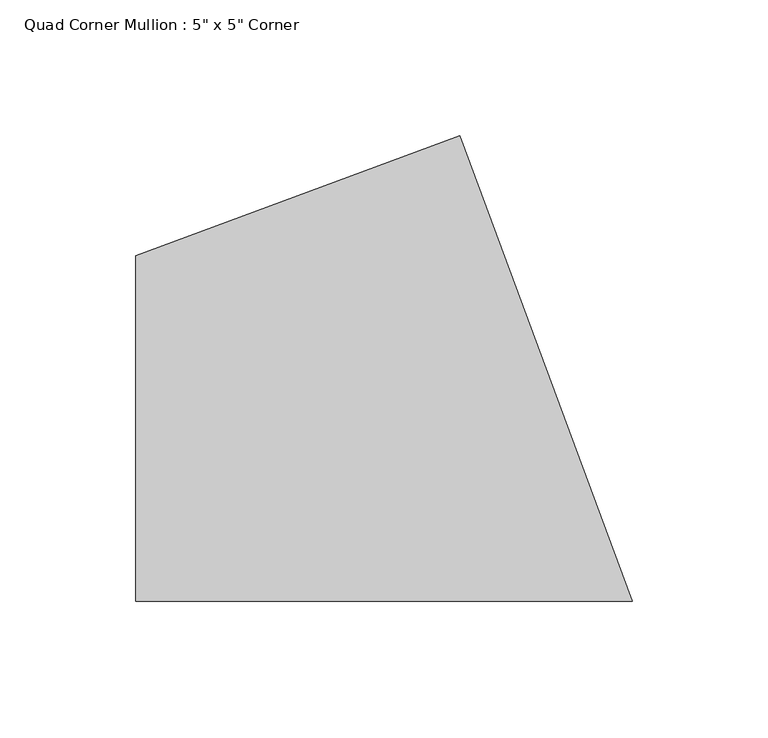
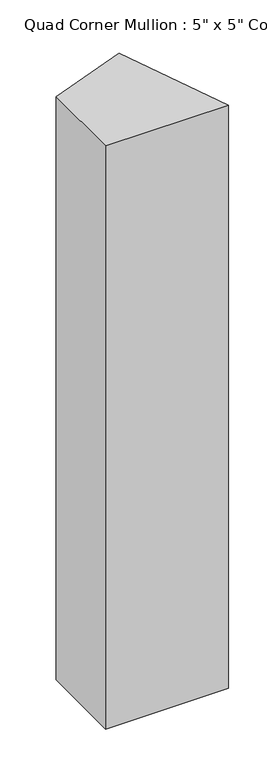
"""IFC4 building model written with IfcOpenShell, lengths in millimetres: member geometry."""

from ifc_helpers import new_model, si_unit, frame, origin, place, context, project, spatial, polyline, outline, extrude, source, transform, mapped, element, save


def member_6deec4cd(model_context):
    return source(origin(), model_context, "Body", "SweptSolid", [
        extrude(outline(polyline([(46.1433634, 94.8733827), (109.4458296, -76.2), (-72.9638864, -76.2), (-72.9638864, 50.8), (46.1433634, 94.8733827)])), frame((0.0, 0.0, -914.4), z_axis=(0.0, 0.0, 1.0), x_axis=(1.0, 0.0, 0.0)), (0.0, 0.0, 1.0), 914.4),
    ])


if __name__ == "__main__":
    model = new_model("IFC4")
    model_context = context("Model", 3, world=origin())
    ifc_project = project(units=[si_unit("LENGTHUNIT", "METRE", prefix="MILLI")], contexts=[model_context])
    site = spatial("IfcSite", under=ifc_project)
    building = spatial("IfcBuilding", under=site)
    placement = place(None, origin())
    member_shape = member_6deec4cd(model_context)
    element("IfcMember", 1, ObjectType="Quad Corner Mullion : 5\" x 5\" Corner", at=placement, inside=building, context=model_context, shape_type="MappedRepresentation", body=[
        mapped(member_shape, transform((0.0, 0.0, 0.0), x_axis=(1.0, 0.0, 0.0), y_axis=(0.0, 1.0, 0.0), z_axis=(0.0, 0.0, 1.0))),
    ])
    save(model, "model.ifc")
